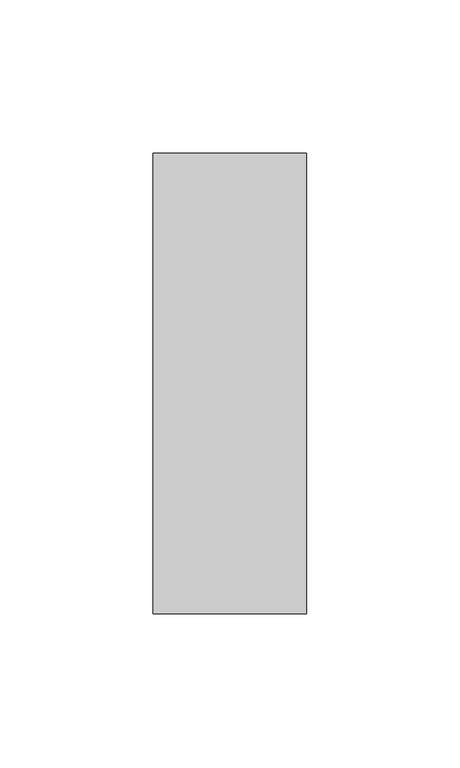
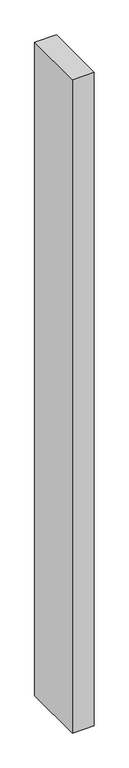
"""IFC4 building model written with IfcOpenShell, lengths in millimetres: member geometry, Прямоугольный импост : 50х150мм."""

from ifc_helpers import new_model, si_unit, frame, origin, place, context, project, spatial, polyline, outline, extrude, source, transform, mapped, element, save


def member_5e049f15(model_context):
    return source(origin(), model_context, "Body", "SweptSolid", [
        extrude(outline(polyline([(25.0, 75.0), (25.0, -75.0), (-25.0, -75.0), (-25.0, 75.0), (25.0, 75.0)])), frame((0.0, 0.0, -1588.6336859), z_axis=(0.0, 0.0, 1.0), x_axis=(1.0, 0.0, 0.0)), (0.0, 0.0, 1.0), 1588.6336859),
    ])


if __name__ == "__main__":
    model = new_model("IFC4")
    model_context = context("Model", 3, world=origin())
    ifc_project = project(units=[si_unit("LENGTHUNIT", "METRE", prefix="MILLI")], contexts=[model_context])
    site = spatial("IfcSite", under=ifc_project)
    building = spatial("IfcBuilding", under=site)
    placement = place(None, origin())
    member_shape = member_5e049f15(model_context)
    element("IfcMember", 1, ObjectType="Прямоугольный импост : 50х150мм", at=placement, inside=building, context=model_context, shape_type="MappedRepresentation", body=[
        mapped(member_shape, transform((0.0, 0.0, 0.0), x_axis=(1.0, 0.0, 0.0), y_axis=(0.0, 1.0, 0.0), z_axis=(0.0, 0.0, 1.0))),
    ])
    save(model, "model.ifc")
